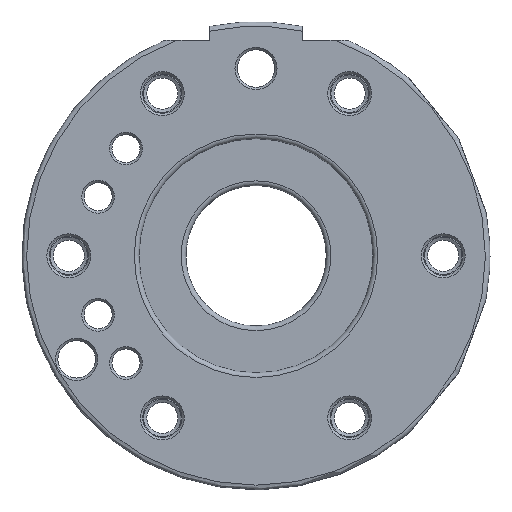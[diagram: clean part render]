
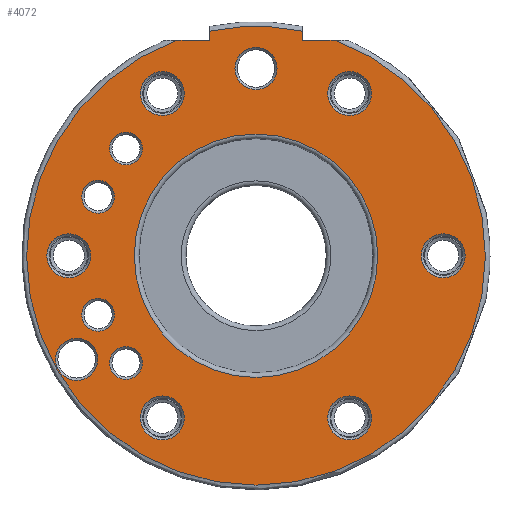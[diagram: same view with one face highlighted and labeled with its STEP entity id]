
A CAD part, front view. The second image highlights one B-rep face of the part: STEP entity #4072.
In plain terms, the highlighted planar face has unit normal (0, -1, 0).
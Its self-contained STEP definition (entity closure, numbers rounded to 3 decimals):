
#215=PLANE('',#4459);
#340=FACE_BOUND('',#666,.T.);
#341=FACE_BOUND('',#667,.T.);
#342=FACE_BOUND('',#668,.T.);
#343=FACE_BOUND('',#669,.T.);
#344=FACE_BOUND('',#670,.T.);
#345=FACE_BOUND('',#671,.T.);
#346=FACE_BOUND('',#672,.T.);
#347=FACE_BOUND('',#673,.T.);
#348=FACE_BOUND('',#674,.T.);
#349=FACE_BOUND('',#675,.T.);
#350=FACE_BOUND('',#676,.T.);
#351=FACE_BOUND('',#677,.T.);
#352=FACE_BOUND('',#678,.T.);
#412=FACE_OUTER_BOUND('',#665,.T.);
#665=EDGE_LOOP('',(#2979,#2980,#2981,#2982,#2983,#2984));
#666=EDGE_LOOP('',(#2985));
#667=EDGE_LOOP('',(#2986));
#668=EDGE_LOOP('',(#2987));
#669=EDGE_LOOP('',(#2988));
#670=EDGE_LOOP('',(#2989));
#671=EDGE_LOOP('',(#2990));
#672=EDGE_LOOP('',(#2991));
#673=EDGE_LOOP('',(#2992));
#674=EDGE_LOOP('',(#2993));
#675=EDGE_LOOP('',(#2994));
#676=EDGE_LOOP('',(#2995));
#677=EDGE_LOOP('',(#2996));
#678=EDGE_LOOP('',(#2997));
#959=LINE('',#6888,#1178);
#960=LINE('',#6890,#1179);
#961=LINE('',#6894,#1180);
#962=LINE('',#6895,#1181);
#1178=VECTOR('',#5265,10.);
#1179=VECTOR('',#5266,10.);
#1180=VECTOR('',#5269,10.);
#1181=VECTOR('',#5270,10.);
#1430=CIRCLE('',#4420,49.);
#1450=CIRCLE('',#4458,4.5);
#1451=CIRCLE('',#4460,49.);
#1452=CIRCLE('',#4461,3.5);
#1453=CIRCLE('',#4462,3.5);
#1454=CIRCLE('',#4463,4.5);
#1455=CIRCLE('',#4464,4.688);
#1456=CIRCLE('',#4465,4.688);
#1457=CIRCLE('',#4466,4.688);
#1458=CIRCLE('',#4467,4.688);
#1459=CIRCLE('',#4468,4.688);
#1460=CIRCLE('',#4469,4.688);
#1461=CIRCLE('',#4470,26.);
#1462=CIRCLE('',#4471,3.5);
#1463=CIRCLE('',#4472,3.5);
#1798=VERTEX_POINT('',#6676);
#1799=VERTEX_POINT('',#6689);
#1825=VERTEX_POINT('',#6883);
#1826=VERTEX_POINT('',#6887);
#1827=VERTEX_POINT('',#6889);
#1828=VERTEX_POINT('',#6891);
#1829=VERTEX_POINT('',#6893);
#1830=VERTEX_POINT('',#6896);
#1831=VERTEX_POINT('',#6898);
#1832=VERTEX_POINT('',#6900);
#1833=VERTEX_POINT('',#6902);
#1834=VERTEX_POINT('',#6904);
#1835=VERTEX_POINT('',#6906);
#1836=VERTEX_POINT('',#6908);
#1837=VERTEX_POINT('',#6910);
#1838=VERTEX_POINT('',#6912);
#1839=VERTEX_POINT('',#6914);
#1840=VERTEX_POINT('',#6916);
#1841=VERTEX_POINT('',#6918);
#2225=EDGE_CURVE('',#1798,#1799,#1430,.T.);
#2267=EDGE_CURVE('',#1825,#1825,#1450,.T.);
#2269=EDGE_CURVE('',#1798,#1826,#959,.T.);
#2270=EDGE_CURVE('',#1826,#1827,#960,.T.);
#2271=EDGE_CURVE('',#1828,#1827,#1451,.T.);
#2272=EDGE_CURVE('',#1828,#1829,#961,.T.);
#2273=EDGE_CURVE('',#1829,#1799,#962,.T.);
#2274=EDGE_CURVE('',#1830,#1830,#1452,.T.);
#2275=EDGE_CURVE('',#1831,#1831,#1453,.T.);
#2276=EDGE_CURVE('',#1832,#1832,#1454,.T.);
#2277=EDGE_CURVE('',#1833,#1833,#1455,.T.);
#2278=EDGE_CURVE('',#1834,#1834,#1456,.T.);
#2279=EDGE_CURVE('',#1835,#1835,#1457,.T.);
#2280=EDGE_CURVE('',#1836,#1836,#1458,.T.);
#2281=EDGE_CURVE('',#1837,#1837,#1459,.T.);
#2282=EDGE_CURVE('',#1838,#1838,#1460,.T.);
#2283=EDGE_CURVE('',#1839,#1839,#1461,.T.);
#2284=EDGE_CURVE('',#1840,#1840,#1462,.T.);
#2285=EDGE_CURVE('',#1841,#1841,#1463,.T.);
#2979=ORIENTED_EDGE('',*,*,#2225,.F.);
#2980=ORIENTED_EDGE('',*,*,#2269,.T.);
#2981=ORIENTED_EDGE('',*,*,#2270,.T.);
#2982=ORIENTED_EDGE('',*,*,#2271,.F.);
#2983=ORIENTED_EDGE('',*,*,#2272,.T.);
#2984=ORIENTED_EDGE('',*,*,#2273,.T.);
#2985=ORIENTED_EDGE('',*,*,#2274,.F.);
#2986=ORIENTED_EDGE('',*,*,#2275,.F.);
#2987=ORIENTED_EDGE('',*,*,#2276,.F.);
#2988=ORIENTED_EDGE('',*,*,#2277,.F.);
#2989=ORIENTED_EDGE('',*,*,#2278,.F.);
#2990=ORIENTED_EDGE('',*,*,#2279,.F.);
#2991=ORIENTED_EDGE('',*,*,#2280,.F.);
#2992=ORIENTED_EDGE('',*,*,#2281,.F.);
#2993=ORIENTED_EDGE('',*,*,#2282,.F.);
#2994=ORIENTED_EDGE('',*,*,#2283,.F.);
#2995=ORIENTED_EDGE('',*,*,#2284,.F.);
#2996=ORIENTED_EDGE('',*,*,#2285,.F.);
#2997=ORIENTED_EDGE('',*,*,#2267,.F.);
#4072=ADVANCED_FACE('',(#412,#340,#341,#342,#343,#344,#345,#346,#347,#348,
#349,#350,#351,#352),#215,.T.);
#4420=AXIS2_PLACEMENT_3D('',#6690,#5168,#5169);
#4458=AXIS2_PLACEMENT_3D('',#6884,#5260,#5261);
#4459=AXIS2_PLACEMENT_3D('',#6886,#5263,#5264);
#4460=AXIS2_PLACEMENT_3D('',#6892,#5267,#5268);
#4461=AXIS2_PLACEMENT_3D('',#6897,#5271,#5272);
#4462=AXIS2_PLACEMENT_3D('',#6899,#5273,#5274);
#4463=AXIS2_PLACEMENT_3D('',#6901,#5275,#5276);
#4464=AXIS2_PLACEMENT_3D('',#6903,#5277,#5278);
#4465=AXIS2_PLACEMENT_3D('',#6905,#5279,#5280);
#4466=AXIS2_PLACEMENT_3D('',#6907,#5281,#5282);
#4467=AXIS2_PLACEMENT_3D('',#6909,#5283,#5284);
#4468=AXIS2_PLACEMENT_3D('',#6911,#5285,#5286);
#4469=AXIS2_PLACEMENT_3D('',#6913,#5287,#5288);
#4470=AXIS2_PLACEMENT_3D('',#6915,#5289,#5290);
#4471=AXIS2_PLACEMENT_3D('',#6917,#5291,#5292);
#4472=AXIS2_PLACEMENT_3D('',#6919,#5293,#5294);
#5168=DIRECTION('center_axis',(0.,1.,0.));
#5169=DIRECTION('ref_axis',(0.,0.,-1.));
#5260=DIRECTION('center_axis',(0.,-1.,0.));
#5261=DIRECTION('ref_axis',(1.,0.,0.));
#5263=DIRECTION('center_axis',(0.,-1.,0.));
#5264=DIRECTION('ref_axis',(0.,0.,-1.));
#5265=DIRECTION('',(-1.,0.,0.));
#5266=DIRECTION('',(0.,0.,1.));
#5267=DIRECTION('center_axis',(0.,1.,0.));
#5268=DIRECTION('ref_axis',(0.,0.,
1.));
#5269=DIRECTION('',(0.,0.,-1.));
#5270=DIRECTION('',(-1.,0.,0.));
#5271=DIRECTION('center_axis',(0.,-1.,0.));
#5272=DIRECTION('ref_axis',(1.,0.,0.));
#5273=DIRECTION('center_axis',(0.,-1.,0.));
#5274=DIRECTION('ref_axis',(1.,0.,0.));
#5275=DIRECTION('center_axis',(0.,-1.,0.));
#5276=DIRECTION('ref_axis',(1.,0.,0.));
#5277=DIRECTION('center_axis',(0.,-1.,0.));
#5278=DIRECTION('ref_axis',(1.,0.,0.));
#5279=DIRECTION('center_axis',(0.,-1.,0.));
#5280=DIRECTION('ref_axis',(1.,0.,0.));
#5281=DIRECTION('center_axis',(0.,-1.,0.));
#5282=DIRECTION('ref_axis',(1.,0.,0.));
#5283=DIRECTION('center_axis',(0.,-1.,0.));
#5284=DIRECTION('ref_axis',(1.,0.,0.));
#5285=DIRECTION('center_axis',(0.,-1.,0.));
#5286=DIRECTION('ref_axis',(1.,0.,0.));
#5287=DIRECTION('center_axis',(0.,-1.,0.));
#5288=DIRECTION('ref_axis',(1.,0.,0.));
#5289=DIRECTION('center_axis',(0.,-1.,0.));
#5290=DIRECTION('ref_axis',(1.,0.,0.));
#5291=DIRECTION('center_axis',(0.,-1.,0.));
#5292=DIRECTION('ref_axis',(1.,0.,0.));
#5293=DIRECTION('center_axis',(0.,-1.,0.));
#5294=DIRECTION('ref_axis',(1.,0.,0.));
#6676=CARTESIAN_POINT('',(16.882,0.,46.));
#6689=CARTESIAN_POINT('',(-16.882,0.,46.));
#6690=CARTESIAN_POINT('Origin',(0.,0.,
0.));
#6883=CARTESIAN_POINT('',(-4.5,0.,40.));
#6884=CARTESIAN_POINT('Origin',(0.,0.,
40.));
#6886=CARTESIAN_POINT('Origin',(-37.5,0.,0.));
#6887=CARTESIAN_POINT('',(10.,0.,46.));
#6888=CARTESIAN_POINT('',(-9.858,0.,46.));
#6889=CARTESIAN_POINT('',(10.,0.,47.969));
#6890=CARTESIAN_POINT('',(10.,0.,25.));
#6891=CARTESIAN_POINT('',(-10.,0.,47.969));
#6892=CARTESIAN_POINT('Origin',(0.,0.,
0.));
#6893=CARTESIAN_POINT('',(-10.,0.,46.));
#6894=CARTESIAN_POINT('',(-10.,0.,25.));
#6895=CARTESIAN_POINT('',(-27.642,0.,46.));
#6896=CARTESIAN_POINT('',(-31.278,0.,22.899));
#6897=CARTESIAN_POINT('Origin',(-27.778,0.,
22.899));
#6898=CARTESIAN_POINT('',(-37.22,0.,-12.607));
#6899=CARTESIAN_POINT('Origin',(-33.72,0.,
-12.607));
#6900=CARTESIAN_POINT('',(-42.822,0.,-22.125));
#6901=CARTESIAN_POINT('Origin',(-38.322,0.,
-22.125));
#6902=CARTESIAN_POINT('',(35.312,0.,0.));
#6903=CARTESIAN_POINT('Origin',(40.,0.,0.));
#6904=CARTESIAN_POINT('',(-44.688,0.,0.));
#6905=CARTESIAN_POINT('Origin',(-40.,0.,0.));
#6906=CARTESIAN_POINT('',(15.312,0.,-34.641));
#6907=CARTESIAN_POINT('Origin',(20.,0.,-34.641));
#6908=CARTESIAN_POINT('',(-24.688,0.,-34.641));
#6909=CARTESIAN_POINT('Origin',(-20.,0.,-34.641));
#6910=CARTESIAN_POINT('',(-24.688,0.,34.641));
#6911=CARTESIAN_POINT('Origin',(-20.,0.,34.641));
#6912=CARTESIAN_POINT('',(15.312,0.,34.641));
#6913=CARTESIAN_POINT('Origin',(20.,0.,34.641));
#6914=CARTESIAN_POINT('',(0.,0.,-26.));
#6915=CARTESIAN_POINT('Origin',(0.,0.,
0.));
#6916=CARTESIAN_POINT('',(-31.278,0.,-22.899));
#6917=CARTESIAN_POINT('Origin',(-27.778,0.,
-22.899));
#6918=CARTESIAN_POINT('',(-37.22,0.,12.607));
#6919=CARTESIAN_POINT('Origin',(-33.72,0.,
12.607));
